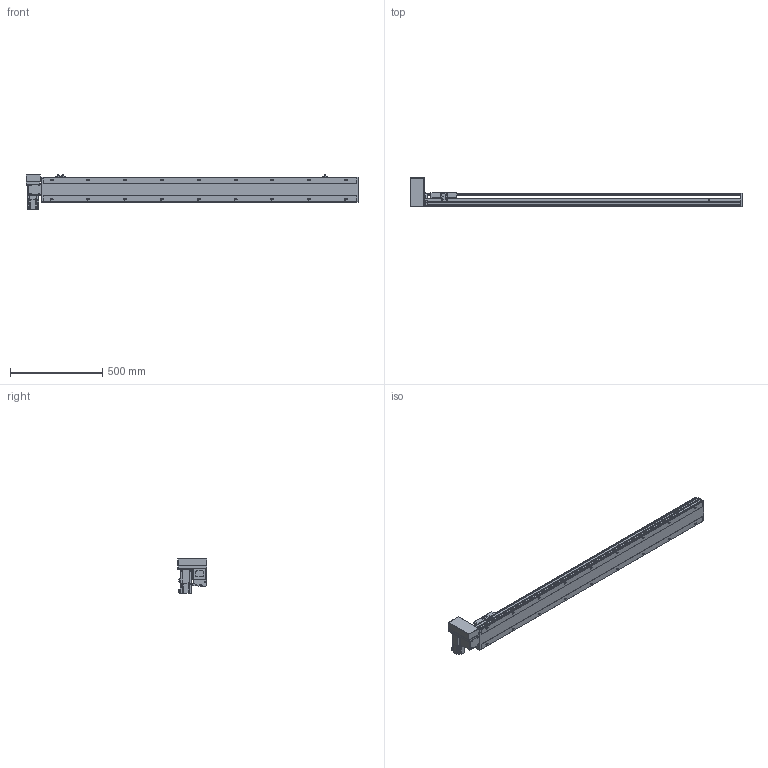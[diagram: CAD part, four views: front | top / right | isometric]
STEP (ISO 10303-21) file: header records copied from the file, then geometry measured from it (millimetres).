
FILE_DESCRIPTION( ( 'STEP AP214' ), '1' );
FILE_NAME( 'x:/temp/worker_1/temp/exporttempdir_5824_145_xndrP/format_0/PBS140-P40-S1450-RU-T40-C1-N(0).stp', '2022-06-07T05:55:07', ( 'License CC BY-ND 4.0' ), ( 'CADENAS' ), ' ', 'PARTsolutions', ' ' );
FILE_SCHEMA( ( 'AUTOMOTIVE_DESIGN { 1 0 10303 214 1 1 1 1 }' ) );
Length unit declared in the file: millimetre
Products named in the file (7): PBS140-P40-S1450-RU-T40-C1-N(0); _PBS140-S1450()_body; _PBS140T-RU_motors; _T40-p1; _PBS140_sliser; _PBS140_plant; _PBS140_sensor
Assembly tree (8 placements, depth 2):
  PBS140-P40-S1450-RU-T40-C1-N(0)
    _PBS140-S1450()_body
    _PBS140T-RU_motors
    _T40-p1
    _PBS140_sliser
    _PBS140_plant
    _PBS140_sensor  x3
Bounding box: 1804 x 162.5 x 189.7 mm (x, y, z)
Volume: 8400643.8 mm3; surface area: 1451204.8 mm2
Topology: 8 solids, 8 shells, 1091 faces, 2876 edges, 1879 vertices
Faces by surface type: plane 698, cylinder 339, cone 44, sphere 8, torus 2
Full cylindrical faces by diameter (mm): 3.242 x4, 4 x2, 4.134 x4, 4.4 x8, 4.5 x2, 4.8 x4, 4.917 x26, 5.5 x7, 6 x2, 7 x20, 7.5 x8, 8 x12, 8.5 x4, 10.5 x18, 14 x1, 30 x2, 50 x2
Entity records: 39931 total; most frequent: CARTESIAN_POINT 6419, DIRECTION 5267, ORIENTED_EDGE 4972, EDGE_CURVE 2486, AXIS2_PLACEMENT_3D 1837, VERTEX_POINT 1725, LINE 1593, VECTOR 1593
